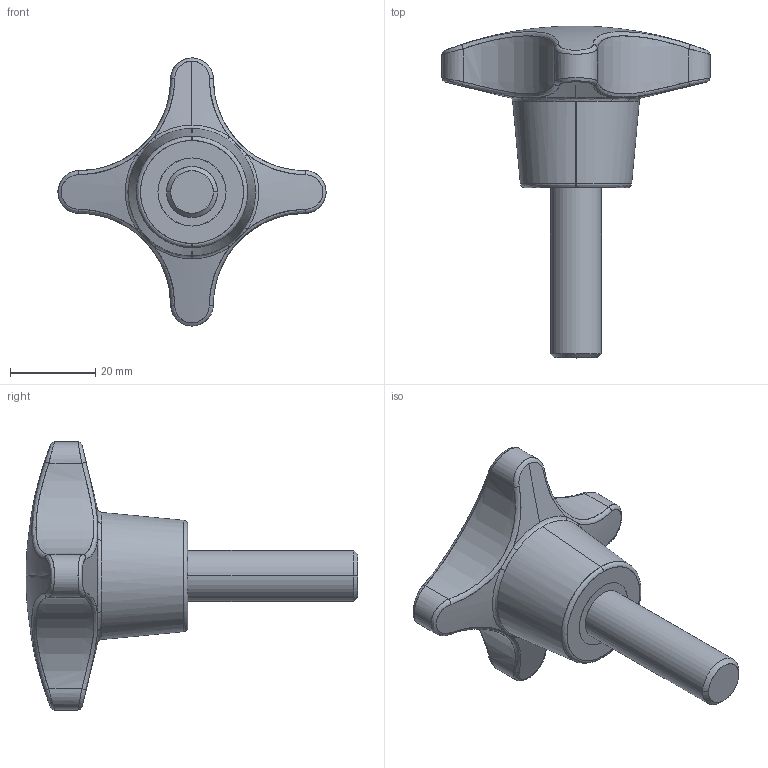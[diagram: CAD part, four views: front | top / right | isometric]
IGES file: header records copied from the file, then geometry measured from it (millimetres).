
Start section: SolidWorks IGES file using analytic representation for surfaces
Global section: file name: C:\Users\Marc\Documents\2 ENGINYERIA\Catalogo 3D\IGS STEP DXF\1121 63 501.IGS; native system: SolidWorks 2010; preprocessor: SolidWorks 2010; author: Marc; date: 101126.165718; units: millimetre
Bounding box: 63 x 78 x 63 mm (x, y, z)
Surface area: 9506.6 mm2 (no closed solid volume)
Topology: 0 solids, 0 shells, 65 faces, 995 edges, 994 vertices
Faces by surface type: bspline 37, revolution 28
